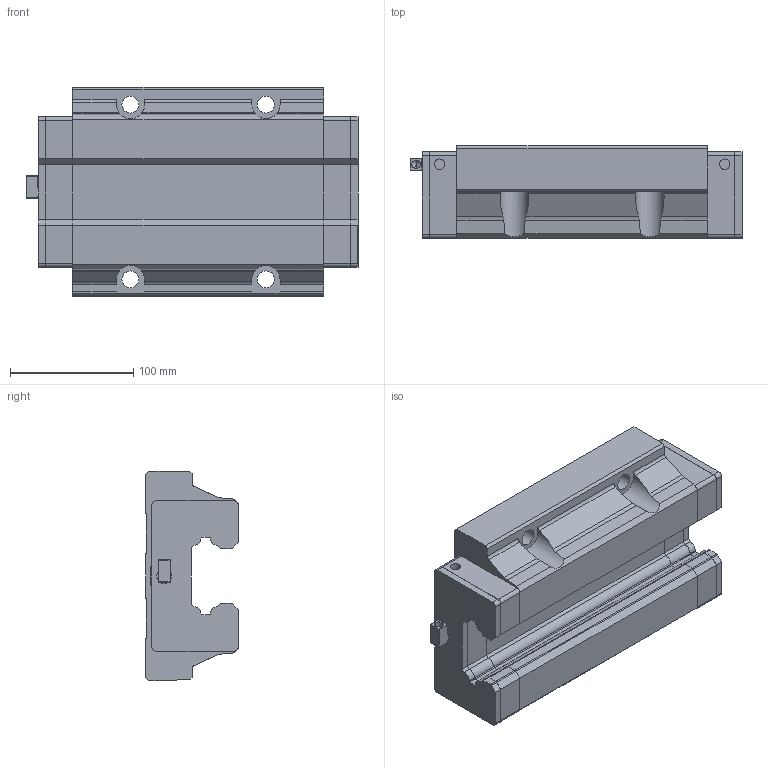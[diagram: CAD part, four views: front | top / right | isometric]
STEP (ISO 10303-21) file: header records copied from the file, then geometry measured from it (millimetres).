
FILE_DESCRIPTION (( 'STEP AP203' ), '1' );
FILE_NAME ('SGW65HA.STEP', '2025-06-27T06:38:31', ( 'Owner' ), ( 'Organization' ), 'SwSTEP 2.0', 'SolidWorks 2020', '' );
FILE_SCHEMA (( 'CONFIG_CONTROL_DESIGN' ));
Length unit declared in the file: millimetre
Products named in the file (1): SGW65HA
Bounding box: 269.6 x 75 x 170 mm (x, y, z)
Volume: 2222184.3 mm3; surface area: 221357.9 mm2
Topology: 7 solids, 7 shells, 426 faces, 1092 edges, 693 vertices
Faces by surface type: plane 272, cylinder 126, cone 28
Entity records: 12991 total; most frequent: CARTESIAN_POINT 2436, DIRECTION 2182, ORIENTED_EDGE 2180, EDGE_CURVE 1090, VECTOR 784, LINE 784, AXIS2_PLACEMENT_3D 699, VERTEX_POINT 693
